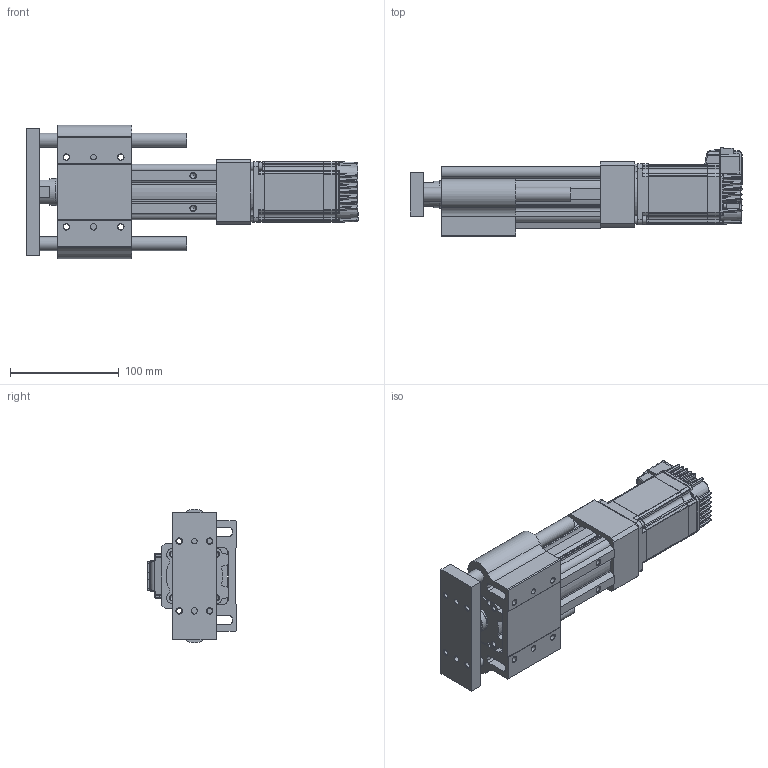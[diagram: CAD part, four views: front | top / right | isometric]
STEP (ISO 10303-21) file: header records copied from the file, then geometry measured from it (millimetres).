
FILE_DESCRIPTION (( 'STEP AP214' ), '1' );
FILE_NAME ('LEYG3(+)-32LDNM1□-50-23L.STEP', '2023-04-14T06:49:20', ( '' ), ( '' ), 'SwSTEP 2.0', 'SolidWorks 2019', '' );
FILE_SCHEMA (( 'AUTOMOTIVE_DESIGN' ));
Length unit declared in the file: millimetre
Products named in the file (6): LEY3(+)-32DNM1_MOTOR Flange; LEYG3(+)-32NM1?_BODY_50; CM3(+)-23L50A_2-M4_01; LEYG3(+)-32LNM1□_ATTACH_50; LEYG3(+)-32LDNM1□-50-23L; LEYG3(+)-32LNM1?_ROD_50
Assembly tree (5 placements, depth 2):
  LEYG3(+)-32LDNM1□-50-23L
    LEYG3(+)-32NM1?_BODY_50
    LEYG3(+)-32LNM1?_ROD_50
    LEYG3(+)-32LNM1□_ATTACH_50
    LEY3(+)-32DNM1_MOTOR Flange
    CM3(+)-23L50A_2-M4_01
Bounding box: 304.8 x 81.05 x 122.98 mm (x, y, z)
Volume: 1001937.5 mm3; surface area: 193196.7 mm2
Topology: 5 solids, 14 shells, 1518 faces, 3918 edges, 2430 vertices
Faces by surface type: plane 707, cylinder 466, bspline 133, cone 107, torus 58, sphere 47
Full cylindrical faces by diameter (mm): 2.5 x4, 3 x2, 3.2 x4, 4.2 x1, 4.5 x7, 4.9 x10, 5 x2, 6.2 x4, 6.35 x1, 7 x2, 8 x2, 13 x2, 24.5 x1, 25 x2, 32 x2, 38.1 x1
Entity records: 51618 total; most frequent: CARTESIAN_POINT 13066, ORIENTED_EDGE 7520, DIRECTION 7003, EDGE_CURVE 3760, VERTEX_POINT 2406, AXIS2_PLACEMENT_3D 2389, LINE 2225, VECTOR 2225
